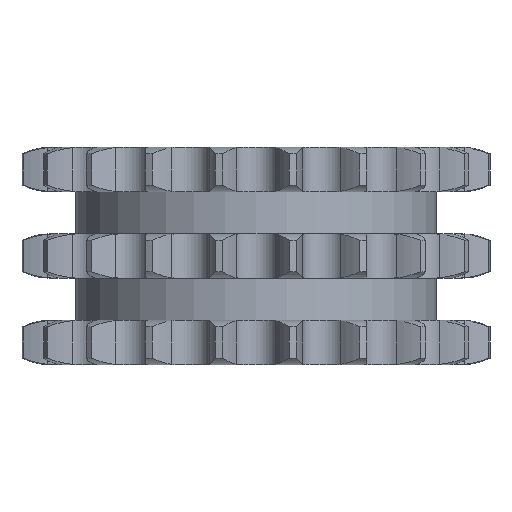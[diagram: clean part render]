
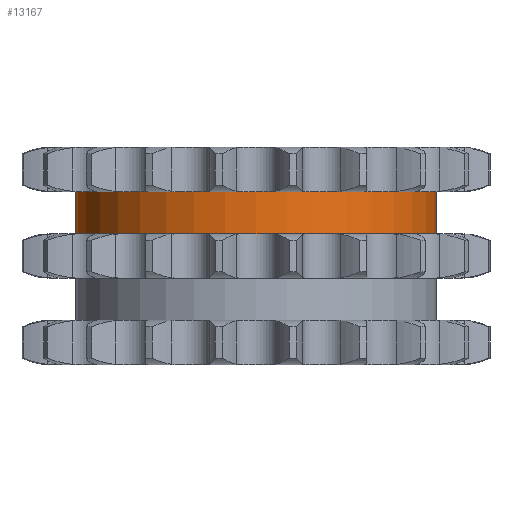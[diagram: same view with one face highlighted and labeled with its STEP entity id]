
A CAD part, left-side view. The second image highlights one B-rep face of the part: STEP entity #13167.
In plain terms, the highlighted cylindrical face has radius 66.184 mm (diameter 132.368 mm), a partial arc.
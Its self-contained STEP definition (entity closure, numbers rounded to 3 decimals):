
#1457=DIRECTION('',(0.,0.,-1.));
#1458=VECTOR('',#1457,15.5);
#1459=CARTESIAN_POINT('',(0.,66.184,23.6));
#1460=LINE('',#1459,#1458);
#1464=CARTESIAN_POINT('',(0.,0.,23.6));
#1465=DIRECTION('',(0.,0.,1.));
#1466=DIRECTION('',(0.,1.,0.));
#1467=AXIS2_PLACEMENT_3D('',#1464,#1465,#1466);
#1472=DIRECTION('',(0.,0.,-1.));
#1473=VECTOR('',#1472,15.5);
#1474=CARTESIAN_POINT('',(0.,-66.184,23.6));
#1475=LINE('',#1474,#1473);
#1479=CARTESIAN_POINT('',(0.,0.,8.1));
#1480=DIRECTION('',(0.,0.,1.));
#1481=DIRECTION('',(0.,1.,0.));
#1482=AXIS2_PLACEMENT_3D('',#1479,#1480,#1481);
#10721=CARTESIAN_POINT('',(0.,66.184,23.6));
#10722=CARTESIAN_POINT('',(0.,66.184,8.1));
#10723=VERTEX_POINT('',#10721);
#10724=VERTEX_POINT('',#10722);
#10725=CARTESIAN_POINT('',(0.,-66.184,23.6));
#10726=CARTESIAN_POINT('',(0.,-66.184,8.1));
#10727=VERTEX_POINT('',#10725);
#10728=VERTEX_POINT('',#10726);
#13155=CARTESIAN_POINT('',(0.,0.,25.96));
#13156=DIRECTION('',(0.,0.,-1.));
#13157=DIRECTION('',(0.,-1.,0.));
#13158=AXIS2_PLACEMENT_3D('',#13155,#13156,#13157);
#13159=CYLINDRICAL_SURFACE('',#13158,66.184);
#13160=ORIENTED_EDGE('',*,*,#13145,.F.);
#13161=ORIENTED_EDGE('',*,*,#13135,.T.);
#13162=ORIENTED_EDGE('',*,*,#13149,.T.);
#13164=ORIENTED_EDGE('',*,*,#13163,.F.);
#13165=EDGE_LOOP('',(#13160,#13161,#13162,#13164));
#13166=FACE_OUTER_BOUND('',#13165,.F.);
#13167=ADVANCED_FACE('',(#13166),#13159,.T.);
#1468=CIRCLE('',#1467,66.184);
#1483=CIRCLE('',#1482,66.184);
#13135=EDGE_CURVE('',#10723,#10727,#1468,.T.);
#13145=EDGE_CURVE('',#10723,#10724,#1460,.T.);
#13149=EDGE_CURVE('',#10727,#10728,#1475,.T.);
#13163=EDGE_CURVE('',#10724,#10728,#1483,.T.);
